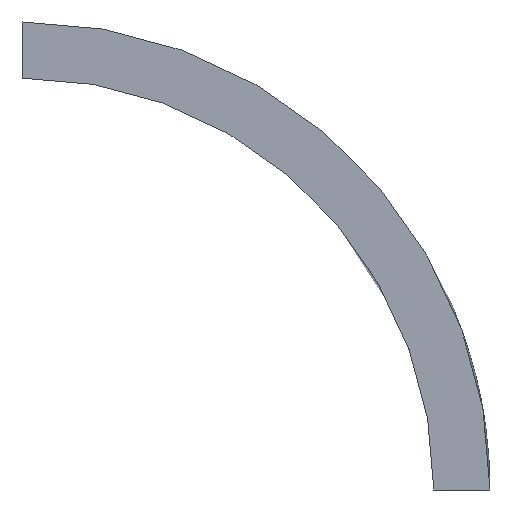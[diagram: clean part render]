
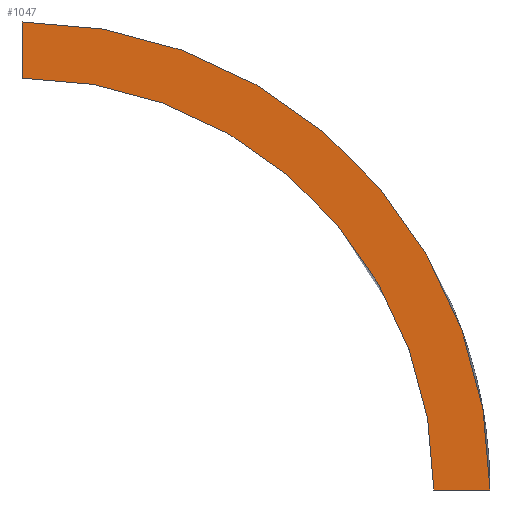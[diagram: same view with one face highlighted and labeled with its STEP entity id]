
A CAD part, front view. The second image highlights one B-rep face of the part: STEP entity #1047.
In plain terms, the highlighted planar face has unit normal (0, -1, 0).
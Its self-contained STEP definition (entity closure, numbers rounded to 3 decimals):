
#24 = VERTEX_POINT('',#25);
#25 = CARTESIAN_POINT('',(29.,-50.,0.));
#32 = CYLINDRICAL_SURFACE('',#33,10.);
#33 = AXIS2_PLACEMENT_3D('',#34,#35,#36);
#34 = CARTESIAN_POINT('',(29.,0.,-10.));
#35 = DIRECTION('',(0.,1.,0.));
#36 = DIRECTION('',(0.707,-0.,0.707));
#44 = PLANE('',#45);
#45 = AXIS2_PLACEMENT_3D('',#46,#47,#48);
#46 = CARTESIAN_POINT('',(29.,0.,-0.6));
#47 = DIRECTION('',(1.,0.,0.));
#48 = DIRECTION('',(0.,0.,1.));
#56 = EDGE_CURVE('',#57,#24,#59,.T.);
#57 = VERTEX_POINT('',#58);
#58 = CARTESIAN_POINT('',(39.,-50.,-10.));
#59 = SURFACE_CURVE('',#60,(#65,#72),.PCURVE_S1.);
#60 = CIRCLE('',#61,10.);
#61 = AXIS2_PLACEMENT_3D('',#62,#63,#64);
#62 = CARTESIAN_POINT('',(29.,-50.,-10.));
#63 = DIRECTION('',(0.,-1.,0.));
#64 = DIRECTION('',(1.,0.,0.));
#65 = PCURVE('',#32,#66);
#66 = DEFINITIONAL_REPRESENTATION('',(#67),#71);
#67 = LINE('',#68,#69);
#68 = CARTESIAN_POINT('',(0.785,-50.));
#69 = VECTOR('',#70,1.);
#70 = DIRECTION('',(-1.,0.));
#71 = ( GEOMETRIC_REPRESENTATION_CONTEXT(2) 
PARAMETRIC_REPRESENTATION_CONTEXT() REPRESENTATION_CONTEXT('2D SPACE',''
  ) );
#72 = PCURVE('',#73,#78);
#73 = PLANE('',#74);
#74 = AXIS2_PLACEMENT_3D('',#75,#76,#77);
#75 = CARTESIAN_POINT('',(34.782,-50.,-4.218));
#76 = DIRECTION('',(-0.,-1.,-0.));
#77 = DIRECTION('',(0.,0.,-1.));
#78 = DEFINITIONAL_REPRESENTATION('',(#79),#83);
#79 = CIRCLE('',#80,10.);
#80 = AXIS2_PLACEMENT_2D('',#81,#82);
#81 = CARTESIAN_POINT('',(5.782,-5.782));
#82 = DIRECTION('',(0.,1.));
#83 = ( GEOMETRIC_REPRESENTATION_CONTEXT(2) 
PARAMETRIC_REPRESENTATION_CONTEXT() REPRESENTATION_CONTEXT('2D SPACE',''
  ) );
#101 = PLANE('',#102);
#102 = AXIS2_PLACEMENT_3D('',#103,#104,#105);
#103 = CARTESIAN_POINT('',(38.4,-32.714,-10.));
#104 = DIRECTION('',(0.,0.,1.));
#105 = DIRECTION('',(1.,0.,0.));
#976 = EDGE_CURVE('',#24,#977,#979,.T.);
#977 = VERTEX_POINT('',#978);
#978 = CARTESIAN_POINT('',(29.,-50.,-1.2));
#979 = SURFACE_CURVE('',#980,(#984,#991),.PCURVE_S1.);
#980 = LINE('',#981,#982);
#981 = CARTESIAN_POINT('',(29.,-50.,0.));
#982 = VECTOR('',#983,1.);
#983 = DIRECTION('',(0.,0.,-1.));
#984 = PCURVE('',#44,#985);
#985 = DEFINITIONAL_REPRESENTATION('',(#986),#990);
#986 = LINE('',#987,#988);
#987 = CARTESIAN_POINT('',(0.6,50.));
#988 = VECTOR('',#989,1.);
#989 = DIRECTION('',(-1.,0.));
#990 = ( GEOMETRIC_REPRESENTATION_CONTEXT(2) 
PARAMETRIC_REPRESENTATION_CONTEXT() REPRESENTATION_CONTEXT('2D SPACE',''
  ) );
#991 = PCURVE('',#73,#992);
#992 = DEFINITIONAL_REPRESENTATION('',(#993),#997);
#993 = LINE('',#994,#995);
#994 = CARTESIAN_POINT('',(-4.218,-5.782));
#995 = VECTOR('',#996,1.);
#996 = DIRECTION('',(1.,0.));
#997 = ( GEOMETRIC_REPRESENTATION_CONTEXT(2) 
PARAMETRIC_REPRESENTATION_CONTEXT() REPRESENTATION_CONTEXT('2D SPACE',''
  ) );
#1015 = CYLINDRICAL_SURFACE('',#1016,8.8);
#1016 = AXIS2_PLACEMENT_3D('',#1017,#1018,#1019);
#1017 = CARTESIAN_POINT('',(29.,0.,-10.));
#1018 = DIRECTION('',(0.,1.,0.));
#1019 = DIRECTION('',(0.707,-0.,0.707));
#1047 = ADVANCED_FACE('',(#1048),#73,.T.);
#1048 = FACE_BOUND('',#1049,.T.);
#1049 = EDGE_LOOP('',(#1050,#1051,#1052,#1076));
#1050 = ORIENTED_EDGE('',*,*,#56,.T.);
#1051 = ORIENTED_EDGE('',*,*,#976,.T.);
#1052 = ORIENTED_EDGE('',*,*,#1053,.F.);
#1053 = EDGE_CURVE('',#1054,#977,#1056,.T.);
#1054 = VERTEX_POINT('',#1055);
#1055 = CARTESIAN_POINT('',(37.8,-50.,-10.));
#1056 = SURFACE_CURVE('',#1057,(#1062,#1069),.PCURVE_S1.);
#1057 = CIRCLE('',#1058,8.8);
#1058 = AXIS2_PLACEMENT_3D('',#1059,#1060,#1061);
#1059 = CARTESIAN_POINT('',(29.,-50.,-10.));
#1060 = DIRECTION('',(0.,-1.,0.));
#1061 = DIRECTION('',(1.,0.,0.));
#1062 = PCURVE('',#73,#1063);
#1063 = DEFINITIONAL_REPRESENTATION('',(#1064),#1068);
#1064 = CIRCLE('',#1065,8.8);
#1065 = AXIS2_PLACEMENT_2D('',#1066,#1067);
#1066 = CARTESIAN_POINT('',(5.782,-5.782));
#1067 = DIRECTION('',(0.,1.));
#1068 = ( GEOMETRIC_REPRESENTATION_CONTEXT(2) 
PARAMETRIC_REPRESENTATION_CONTEXT() REPRESENTATION_CONTEXT('2D SPACE',''
  ) );
#1069 = PCURVE('',#1015,#1070);
#1070 = DEFINITIONAL_REPRESENTATION('',(#1071),#1075);
#1071 = LINE('',#1072,#1073);
#1072 = CARTESIAN_POINT('',(0.785,-50.));
#1073 = VECTOR('',#1074,1.);
#1074 = DIRECTION('',(-1.,0.));
#1075 = ( GEOMETRIC_REPRESENTATION_CONTEXT(2) 
PARAMETRIC_REPRESENTATION_CONTEXT() REPRESENTATION_CONTEXT('2D SPACE',''
  ) );
#1076 = ORIENTED_EDGE('',*,*,#1077,.F.);
#1077 = EDGE_CURVE('',#57,#1054,#1078,.T.);
#1078 = SURFACE_CURVE('',#1079,(#1083,#1090),.PCURVE_S1.);
#1079 = LINE('',#1080,#1081);
#1080 = CARTESIAN_POINT('',(39.,-50.,-10.));
#1081 = VECTOR('',#1082,1.);
#1082 = DIRECTION('',(-1.,0.,0.));
#1083 = PCURVE('',#73,#1084);
#1084 = DEFINITIONAL_REPRESENTATION('',(#1085),#1089);
#1085 = LINE('',#1086,#1087);
#1086 = CARTESIAN_POINT('',(5.782,4.218));
#1087 = VECTOR('',#1088,1.);
#1088 = DIRECTION('',(0.,-1.));
#1089 = ( GEOMETRIC_REPRESENTATION_CONTEXT(2) 
PARAMETRIC_REPRESENTATION_CONTEXT() REPRESENTATION_CONTEXT('2D SPACE',''
  ) );
#1090 = PCURVE('',#101,#1091);
#1091 = DEFINITIONAL_REPRESENTATION('',(#1092),#1096);
#1092 = LINE('',#1093,#1094);
#1093 = CARTESIAN_POINT('',(0.6,-17.286));
#1094 = VECTOR('',#1095,1.);
#1095 = DIRECTION('',(-1.,0.));
#1096 = ( GEOMETRIC_REPRESENTATION_CONTEXT(2) 
PARAMETRIC_REPRESENTATION_CONTEXT() REPRESENTATION_CONTEXT('2D SPACE',''
  ) );
